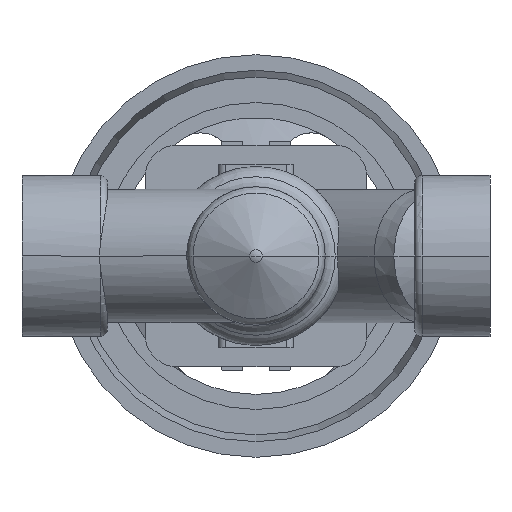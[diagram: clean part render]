
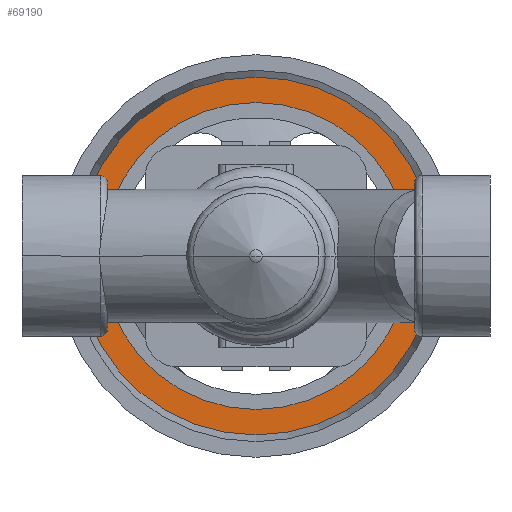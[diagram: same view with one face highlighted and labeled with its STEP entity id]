
A CAD part, front view. The second image highlights one B-rep face of the part: STEP entity #69190.
In plain terms, the highlighted planar face has unit normal (0, -1, 0).
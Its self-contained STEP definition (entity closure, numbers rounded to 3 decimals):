
#68640=CARTESIAN_POINT('',(164.109,289.4,0.)
);
#68650=VERTEX_POINT('',#68640);
#68730=CARTESIAN_POINT('',(21.891,289.4,0.));
#68740=VERTEX_POINT('',#68730);
#68770=CARTESIAN_POINT('',(93.,289.4,0.));
#68780=DIRECTION('',(0.,1.,0.));
#68790=DIRECTION('',(-1.,0.,0.));
#68800=AXIS2_PLACEMENT_3D('',#68770,#68780,#68790);
#68810=CIRCLE('',#68800,71.109);
#68820=EDGE_CURVE('',#68650,#68740,#68810,.T.);
#68940=CARTESIAN_POINT('',(26.946,289.4,0.))
;
#68950=DIRECTION('',(0.,-1.,0.));
#68960=DIRECTION('',(1.,0.,0.));
#68970=AXIS2_PLACEMENT_3D('',#68940,#68950,#68960);
#68980=PLANE('',#68970);
#68990=EDGE_CURVE('',#68740,#68650,#68810,.T.);
#69000=ORIENTED_EDGE('',*,*,#68990,.F.);
#69010=ORIENTED_EDGE('',*,*,#68820,.F.);
#69020=EDGE_LOOP('',(#69010,#69000));
#69030=FACE_OUTER_BOUND('',#69020,.T.);
#69040=CARTESIAN_POINT('',(93.,289.4,0.));
#69050=DIRECTION('',(0.,1.,0.));
#69060=DIRECTION('',(-1.,0.,0.));
#69070=AXIS2_PLACEMENT_3D('',#69040,#69050,#69060);
#69080=CIRCLE('',#69070,61.);
#69090=CARTESIAN_POINT('',(32.,289.4,0.));
#69100=VERTEX_POINT('',#69090);
#69110=CARTESIAN_POINT('',(154.,289.4,0.));
#69120=VERTEX_POINT('',#69110);
#69130=EDGE_CURVE('',#69100,#69120,#69080,.T.);
#69140=ORIENTED_EDGE('',*,*,#69130,.T.);
#69150=EDGE_CURVE('',#69120,#69100,#69080,.T.);
#69160=ORIENTED_EDGE('',*,*,#69150,.T.);
#69170=EDGE_LOOP('',(#69160,#69140));
#69180=FACE_BOUND('',#69170,.T.);
#69190=ADVANCED_FACE('',(#69030,#69180),#68980,.T.);
